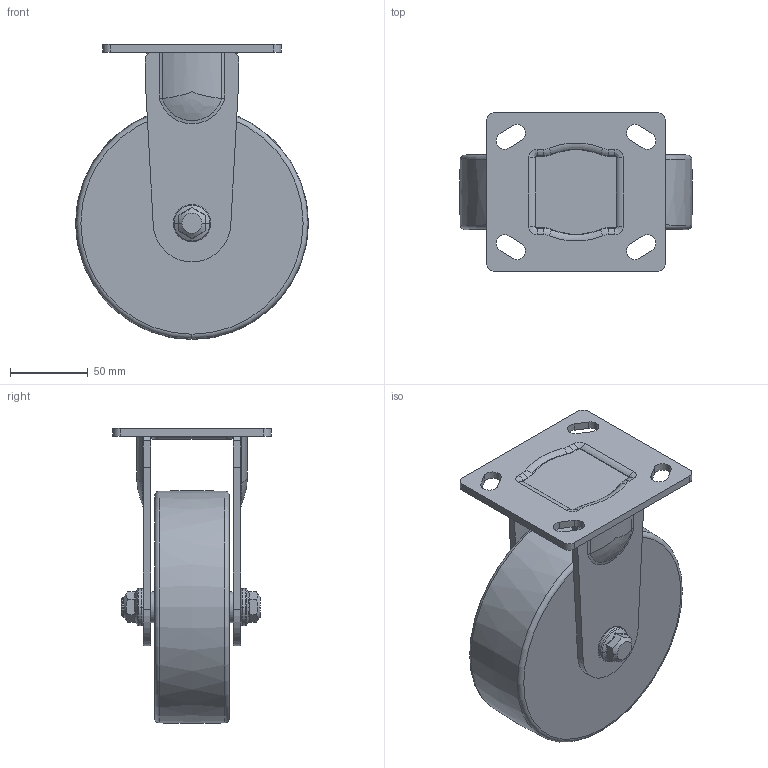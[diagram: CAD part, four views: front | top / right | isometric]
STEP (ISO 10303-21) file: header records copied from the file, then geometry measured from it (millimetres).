
FILE_DESCRIPTION((''),'2;1');
FILE_NAME('PM-150-ARF-MCD.stp','2013-04-30T16:44:04',(''),(''),'Mechanical Desktop 2009','Mechanical Desktop 2009',', , ');
FILE_SCHEMA(('CONFIG_CONTROL_DESIGN'));
Length unit declared in the file: millimetre
Products named in the file (2): PM-150-ARF-MCD; RF-PLATE
Assembly tree (1 placements, depth 2):
  PM-150-ARF-MCD
    RF-PLATE
Bounding box: 150 x 102 x 189.95 mm (x, y, z)
Volume: 978527 mm3; surface area: 113225.3 mm2
Topology: 1 solids, 1 shells, 191 faces, 488 edges, 306 vertices
Faces by surface type: plane 57, cylinder 56, bspline 30, torus 24, cone 24
Entity records: 7291 total; most frequent: CARTESIAN_POINT 2693, ORIENTED_EDGE 976, DIRECTION 914, EDGE_CURVE 488, AXIS2_PLACEMENT_3D 357, VERTEX_POINT 306, EDGE_LOOP 208, VECTOR 200
